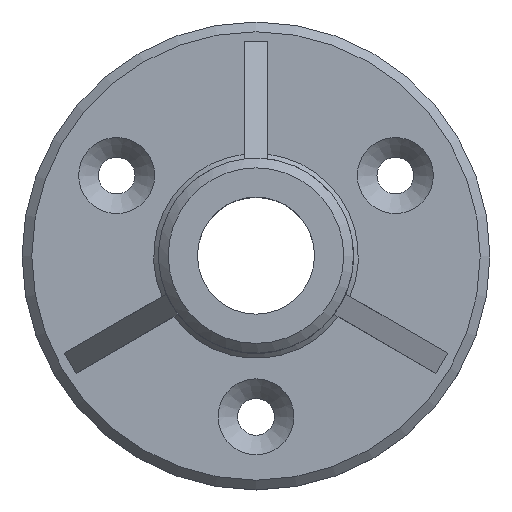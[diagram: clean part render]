
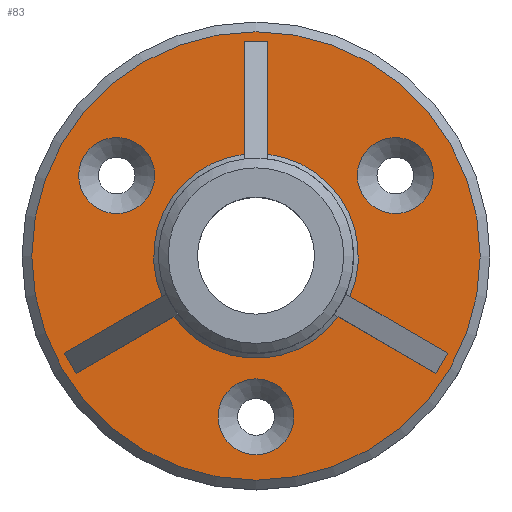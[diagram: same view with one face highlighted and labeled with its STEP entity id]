
A CAD part, top view. The second image highlights one B-rep face of the part: STEP entity #83.
In plain terms, the highlighted planar face has unit normal (0, 0, 1).
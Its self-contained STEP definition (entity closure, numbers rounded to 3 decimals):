
#68=PLANE('',#635);
#83=ADVANCED_FACE('',(#211,#212,#213,#214,#215),#68,.T.);
#136=LINE('',#903,#160);
#137=LINE('',#908,#161);
#138=LINE('',#910,#162);
#139=LINE('',#912,#163);
#140=LINE('',#916,#164);
#141=LINE('',#918,#165);
#142=LINE('',#920,#166);
#143=LINE('',#924,#167);
#144=LINE('',#926,#168);
#160=VECTOR('',#718,1.);
#161=VECTOR('',#721,1.);
#162=VECTOR('',#722,1.);
#163=VECTOR('',#723,1.);
#164=VECTOR('',#726,1.);
#165=VECTOR('',#727,1.);
#166=VECTOR('',#728,1.);
#167=VECTOR('',#731,1.);
#168=VECTOR('',#732,1.);
#182=CIRCLE('',#628,11.365);
#183=CIRCLE('',#629,11.365);
#184=CIRCLE('',#630,11.365);
#185=CIRCLE('',#631,30.625);
#186=CIRCLE('',#632,30.625);
#187=CIRCLE('',#633,30.625);
#188=CIRCLE('',#634,67.083);
#211=FACE_BOUND('',#255,.T.);
#212=FACE_BOUND('',#256,.T.);
#213=FACE_BOUND('',#257,.T.);
#214=FACE_BOUND('',#258,.T.);
#215=FACE_BOUND('',#259,.T.);
#255=EDGE_LOOP('',(#329));
#256=EDGE_LOOP('',(#330));
#257=EDGE_LOOP('',(#331));
#258=EDGE_LOOP('',(#332,#333,#334,#335,#336,#337,#338,#339,#340,#341,#342,
#343));
#259=EDGE_LOOP('',(#344));
#329=ORIENTED_EDGE('',*,*,#538,.T.);
#330=ORIENTED_EDGE('',*,*,#539,.T.);
#331=ORIENTED_EDGE('',*,*,#540,.T.);
#332=ORIENTED_EDGE('',*,*,#541,.F.);
#333=ORIENTED_EDGE('',*,*,#542,.T.);
#334=ORIENTED_EDGE('',*,*,#543,.T.);
#335=ORIENTED_EDGE('',*,*,#544,.F.);
#336=ORIENTED_EDGE('',*,*,#545,.F.);
#337=ORIENTED_EDGE('',*,*,#546,.T.);
#338=ORIENTED_EDGE('',*,*,#547,.T.);
#339=ORIENTED_EDGE('',*,*,#548,.F.);
#340=ORIENTED_EDGE('',*,*,#549,.F.);
#341=ORIENTED_EDGE('',*,*,#550,.T.);
#342=ORIENTED_EDGE('',*,*,#551,.T.);
#343=ORIENTED_EDGE('',*,*,#552,.T.);
#344=ORIENTED_EDGE('',*,*,#553,.T.);
#481=VERTEX_POINT('',#898);
#482=VERTEX_POINT('',#900);
#483=VERTEX_POINT('',#902);
#484=VERTEX_POINT('',#904);
#485=VERTEX_POINT('',#905);
#486=VERTEX_POINT('',#907);
#487=VERTEX_POINT('',#909);
#488=VERTEX_POINT('',#911);
#489=VERTEX_POINT('',#913);
#490=VERTEX_POINT('',#915);
#491=VERTEX_POINT('',#917);
#492=VERTEX_POINT('',#919);
#493=VERTEX_POINT('',#921);
#494=VERTEX_POINT('',#923);
#495=VERTEX_POINT('',#925);
#496=VERTEX_POINT('',#928);
#538=EDGE_CURVE('',#481,#481,#182,.T.);
#539=EDGE_CURVE('',#482,#482,#183,.T.);
#540=EDGE_CURVE('',#483,#483,#184,.T.);
#541=EDGE_CURVE('',#484,#485,#136,.T.);
#542=EDGE_CURVE('',#484,#486,#185,.T.);
#543=EDGE_CURVE('',#486,#487,#137,.T.);
#544=EDGE_CURVE('',#488,#487,#138,.T.);
#545=EDGE_CURVE('',#489,#488,#139,.T.);
#546=EDGE_CURVE('',#489,#490,#186,.T.);
#547=EDGE_CURVE('',#490,#491,#140,.T.);
#548=EDGE_CURVE('',#492,#491,#141,.T.);
#549=EDGE_CURVE('',#493,#492,#142,.T.);
#550=EDGE_CURVE('',#493,#494,#187,.T.);
#551=EDGE_CURVE('',#494,#495,#143,.T.);
#552=EDGE_CURVE('',#495,#485,#144,.T.);
#553=EDGE_CURVE('',#496,#496,#188,.T.);
#628=AXIS2_PLACEMENT_3D('',#897,#712,#713);
#629=AXIS2_PLACEMENT_3D('',#899,#714,#715);
#630=AXIS2_PLACEMENT_3D('',#901,#716,#717);
#631=AXIS2_PLACEMENT_3D('',#906,#719,#720);
#632=AXIS2_PLACEMENT_3D('',#914,#724,#725);
#633=AXIS2_PLACEMENT_3D('',#922,#729,#730);
#634=AXIS2_PLACEMENT_3D('',#927,#733,#734);
#635=AXIS2_PLACEMENT_3D('',#929,#735,#736);
#712=DIRECTION('',(0.,0.,-1.));
#713=DIRECTION('',(-1.,0.,0.));
#714=DIRECTION('',(0.,0.,-1.));
#715=DIRECTION('',(-1.,0.,0.));
#716=DIRECTION('',(0.,0.,-1.));
#717=DIRECTION('',(-1.,0.,0.));
#718=DIRECTION('',(0.,1.,0.));
#719=DIRECTION('',(0.,0.,-1.));
#720=DIRECTION('',(1.,0.,0.));
#721=DIRECTION('',(0.866,-0.5,0.));
#722=DIRECTION('',(0.5,0.866,0.));
#723=DIRECTION('',(0.866,-0.5,0.));
#724=DIRECTION('',(0.,0.,-1.));
#725=DIRECTION('',(1.,0.,0.));
#726=DIRECTION('',(-0.866,-0.5,0.));
#727=DIRECTION('',(0.5,-0.866,0.));
#728=DIRECTION('',(-0.866,-0.5,0.));
#729=DIRECTION('',(0.,0.,-1.));
#730=DIRECTION('',(1.,0.,0.));
#731=DIRECTION('',(0.,1.,0.));
#732=DIRECTION('',(1.,0.,0.));
#733=DIRECTION('',(0.,0.,1.));
#734=DIRECTION('',(1.,0.,0.));
#735=DIRECTION('',(0.,0.,1.));
#736=DIRECTION('',(1.,0.,0.));
#897=CARTESIAN_POINT('',(0.,-48.125,11.667));
#898=CARTESIAN_POINT('',(-11.365,-48.125,11.667));
#899=CARTESIAN_POINT('',(41.677,24.062,11.667));
#900=CARTESIAN_POINT('',(30.312,24.062,11.667));
#901=CARTESIAN_POINT('',(-41.677,24.062,11.667));
#902=CARTESIAN_POINT('',(-53.042,24.062,11.667));
#903=CARTESIAN_POINT('',(3.5,23.333,11.667));
#904=CARTESIAN_POINT('',(3.5,30.424,11.667));
#905=CARTESIAN_POINT('',(3.5,64.167,11.667));
#906=CARTESIAN_POINT('',(0.,0.,11.667));
#907=CARTESIAN_POINT('',(28.098,-12.181,11.667));
#908=CARTESIAN_POINT('',(21.957,-8.636,11.667));
#909=CARTESIAN_POINT('',(57.32,-29.052,11.667));
#910=CARTESIAN_POINT('',(53.82,-35.114,11.667));
#911=CARTESIAN_POINT('',(53.82,-35.114,11.667));
#912=CARTESIAN_POINT('',(18.457,-14.698,11.667));
#913=CARTESIAN_POINT('',(24.598,-18.243,11.667));
#914=CARTESIAN_POINT('',(0.,0.,11.667));
#915=CARTESIAN_POINT('',(-24.598,-18.243,11.667));
#916=CARTESIAN_POINT('',(-18.457,-14.698,11.667));
#917=CARTESIAN_POINT('',(-53.82,-35.114,11.667));
#918=CARTESIAN_POINT('',(-57.32,-29.052,11.667));
#919=CARTESIAN_POINT('',(-57.32,-29.052,11.667));
#920=CARTESIAN_POINT('',(-21.957,-8.636,11.667));
#921=CARTESIAN_POINT('',(-28.098,-12.181,11.667));
#922=CARTESIAN_POINT('',(0.,0.,11.667));
#923=CARTESIAN_POINT('',(-3.5,30.424,11.667));
#924=CARTESIAN_POINT('',(-3.5,23.333,11.667));
#925=CARTESIAN_POINT('',(-3.5,64.167,11.667));
#926=CARTESIAN_POINT('',(3.5,64.167,11.667));
#927=CARTESIAN_POINT('',(0.,0.,11.667));
#928=CARTESIAN_POINT('',(67.083,0.,11.667));
#929=CARTESIAN_POINT('',(70.,0.,11.667));
